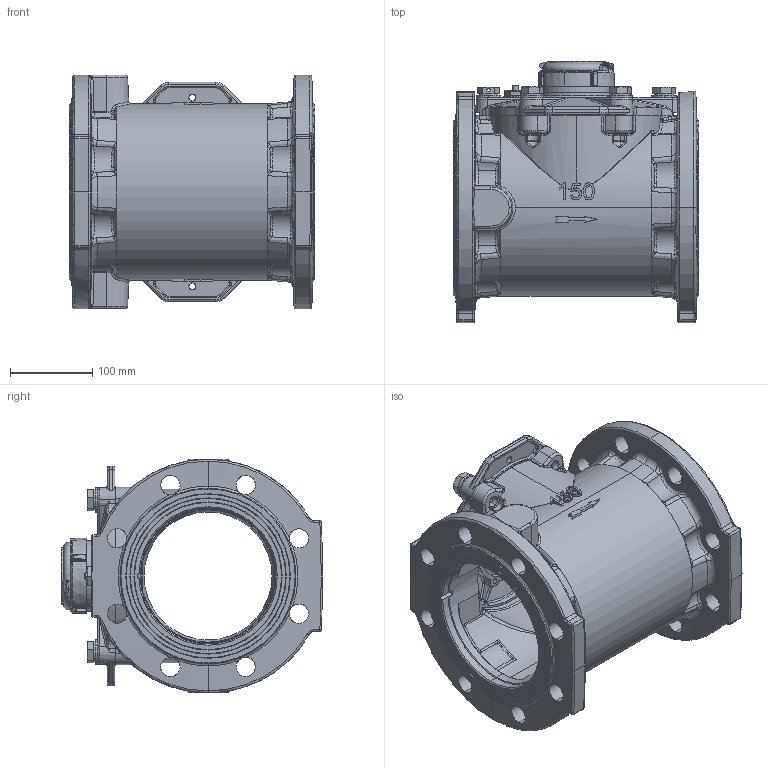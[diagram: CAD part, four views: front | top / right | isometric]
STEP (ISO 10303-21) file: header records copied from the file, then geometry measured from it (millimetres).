
FILE_DESCRIPTION (( 'STEP AP203' ), '1' );
FILE_NAME ('13351009-00,WTII 6 ISO m3 EEC.STEP', '2011-05-16T06:34:25', ( 'àøã-ãìéä áò"î' ), ( '' ), 'SwSTEP 2.0', 'SolidWorks 2011', '' );
FILE_SCHEMA (( 'CONFIG_CONTROL_DESIGN' ));
Length unit declared in the file: millimetre
Products named in the file (11): 13351009-00,WTII 6 ISO m3 EEC; Hex cap screws MxL DIN 933(M16X2X40(21081609 -00)); FLAT WASHERS DIN 125 A (ISO 7089)(M16 (2 30 213 09 )); 25222309-06,25275209-06,Cover WT 6''''-8''''(Default); 21082009-21,Regulator cap screw WT-4; 21081610-03,Hex cap screw M16x40 drilled; 32259055-21,Body WT 6''''(3 22 592 09 -20); a,25820329-04,Register cover 19 with plastic lid ARAD-3; p,26710709-07,Lid pin-2; p,27630309-05,Plastic lid ARAD(hor)-1-3; 25820309-18,Register cover 19-1-3
Assembly tree (19 placements, depth 3):
  13351009-00,WTII 6 ISO m3 EEC
    Hex cap screws MxL DIN 933(M16X2X40(21081609 -00))  x5
    FLAT WASHERS DIN 125 A (ISO 7089)(M16 (2 30 213 09 ))  x6
    a,25820329-04,Register cover 19 with plastic lid ARAD-3
      p,26710709-07,Lid pin-2
      25820309-18,Register cover 19-1-3
      p,27630309-05,Plastic lid ARAD(hor)-1-3
    25222309-06,25275209-06,Cover WT 6''''-8''''(Default)
    21082009-21,Regulator cap screw WT-4
    21081610-03,Hex cap screw M16x40 drilled
    32259055-21,Body WT 6''''(3 22 592 09 -20)
Bounding box: 299.3 x 319.1 x 285 mm (x, y, z)
Volume: 4633120.5 mm3; surface area: 771212 mm2
Topology: 18 solids, 18 shells, 2461 faces, 6128 edges, 3601 vertices
Faces by surface type: bspline 780, plane 610, cylinder 516, cone 297, torus 242, sphere 16
Entity records: 111426 total; most frequent: CARTESIAN_POINT 61899, ORIENTED_EDGE 11418, DIRECTION 8302, EDGE_CURVE 5709, VERTEX_POINT 3430, AXIS2_PLACEMENT_3D 3423, EDGE_LOOP 2441, ADVANCED_FACE 2323
